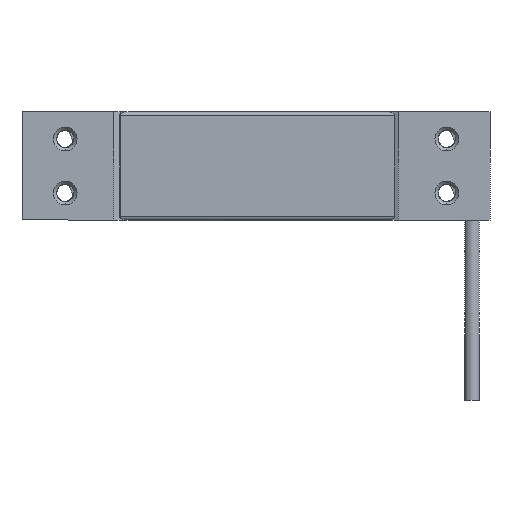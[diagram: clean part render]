
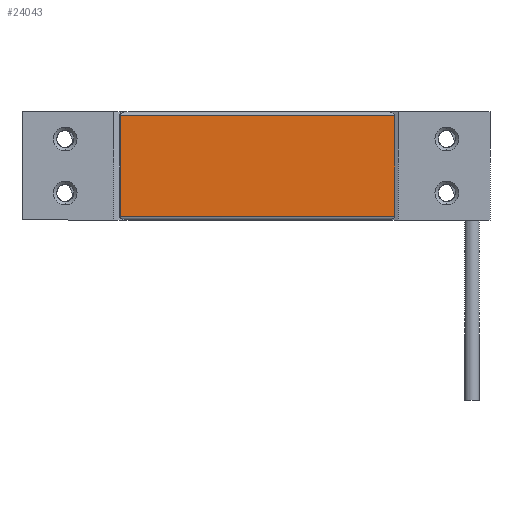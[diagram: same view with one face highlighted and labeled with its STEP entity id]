
A CAD part, front view. The second image highlights one B-rep face of the part: STEP entity #24043.
In plain terms, the highlighted planar face has unit normal (-0.004, -1, 0).
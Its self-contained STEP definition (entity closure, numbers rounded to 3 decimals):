
#222 = CARTESIAN_POINT ( 'NONE',  ( -37.914, -10.26, 13.52 ) ) ;
#557 = VERTEX_POINT ( 'NONE', #4173 ) ;
#2103 = AXIS2_PLACEMENT_3D ( 'NONE', #23671, #19931, #2847 ) ;
#2847 = DIRECTION ( 'NONE',  ( -1., 0.004, 0. ) ) ;
#4173 = CARTESIAN_POINT ( 'NONE',  ( 38.52, -10.542, -14.48 ) ) ;
#4855 = EDGE_CURVE ( 'NONE', #22648, #22522, #11111, .T. ) ;
#6457 = DIRECTION ( 'NONE',  ( 0., 0., -1. ) ) ;
#9147 = LINE ( 'NONE', #18631, #18406 ) ;
#9675 = EDGE_CURVE ( 'NONE', #9942, #557, #24267, .T. ) ;
#9942 = VERTEX_POINT ( 'NONE', #21258 ) ;
#11009 = DIRECTION ( 'NONE',  ( 0., 0., -1. ) ) ;
#11111 = LINE ( 'NONE', #222, #23012 ) ;
#12178 = CARTESIAN_POINT ( 'NONE',  ( -37.914, -10.26, 14.52 ) ) ;
#12316 = FACE_OUTER_BOUND ( 'NONE', #16326, .T. ) ;
#12828 = CARTESIAN_POINT ( 'NONE',  ( 38.52, -10.542, 13.52 ) ) ;
#13060 = EDGE_CURVE ( 'NONE', #22648, #557, #9147, .T. ) ;
#13859 = VECTOR ( 'NONE', #6457, 1000. ) ;
#14477 = ORIENTED_EDGE ( 'NONE', *, *, #17295, .T. ) ;
#14950 = CARTESIAN_POINT ( 'NONE',  ( -37.914, -10.26, 13.52 ) ) ;
#16054 = PLANE ( 'NONE',  #2103 ) ;
#16326 = EDGE_LOOP ( 'NONE', ( #14477, #23379, #24316, #19619 ) ) ;
#17295 = EDGE_CURVE ( 'NONE', #22522, #9942, #23905, .T. ) ;
#18406 = VECTOR ( 'NONE', #11009, 1000. ) ;
#18631 = CARTESIAN_POINT ( 'NONE',  ( 38.52, -10.542, 14.52 ) ) ;
#18658 = CARTESIAN_POINT ( 'NONE',  ( 38.52, -10.542, -14.48 ) ) ;
#19193 = DIRECTION ( 'NONE',  ( -1., 0.004, 0. ) ) ;
#19619 = ORIENTED_EDGE ( 'NONE', *, *, #4855, .T. ) ;
#19931 = DIRECTION ( 'NONE',  ( -0.004, -1., 0. ) ) ;
#20280 = DIRECTION ( 'NONE',  ( 1., -0.004, 0. ) ) ;
#20560 = VECTOR ( 'NONE', #20280, 1000. ) ;
#21258 = CARTESIAN_POINT ( 'NONE',  ( -37.914, -10.26, -14.48 ) ) ;
#22522 = VERTEX_POINT ( 'NONE', #14950 ) ;
#22648 = VERTEX_POINT ( 'NONE', #12828 ) ;
#23012 = VECTOR ( 'NONE', #19193, 1000. ) ;
#23379 = ORIENTED_EDGE ( 'NONE', *, *, #9675, .T. ) ;
#23671 = CARTESIAN_POINT ( 'NONE',  ( 38.52, -10.542, 14.52 ) ) ;
#23905 = LINE ( 'NONE', #12178, #13859 ) ;
#24043 = ADVANCED_FACE ( 'NONE', ( #12316 ), #16054, .T. ) ;
#24267 = LINE ( 'NONE', #18658, #20560 ) ;
#24316 = ORIENTED_EDGE ( 'NONE', *, *, #13060, .F. ) ;
